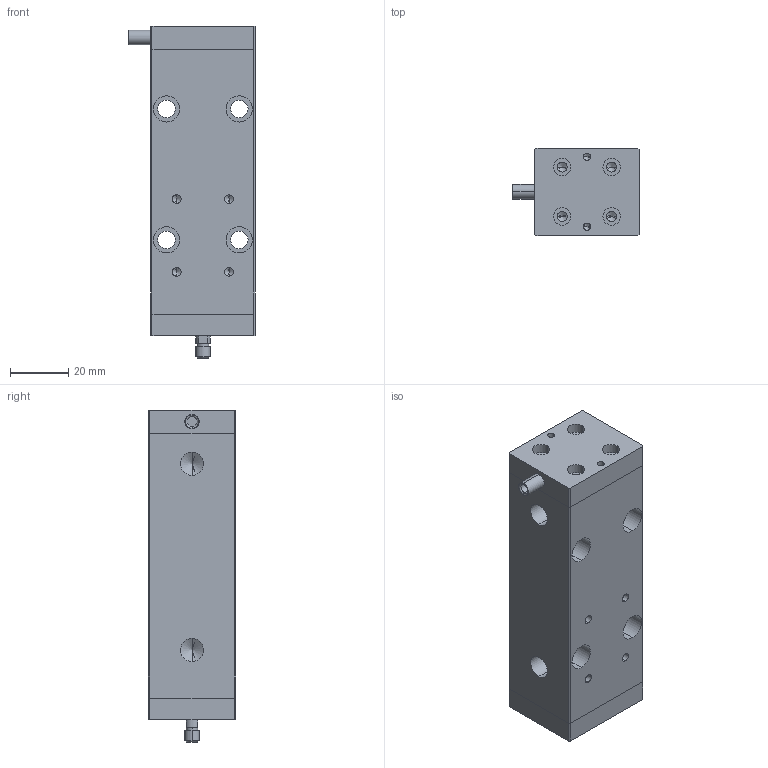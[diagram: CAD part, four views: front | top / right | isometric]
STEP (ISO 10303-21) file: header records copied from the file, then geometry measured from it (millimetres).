
FILE_DESCRIPTION (( 'STEP AP203' ), '1' );
FILE_NAME ('XD700.100S-B2外形三维-21.10.18.STEP', '2021-10-18T03:35:15', ( 'Windows 用户' ), ( '微软中国' ), 'SwSTEP 2.0', 'SolidWorks 2016', '' );
FILE_SCHEMA (( 'CONFIG_CONTROL_DESIGN' ));
Length unit declared in the file: millimetre
Products named in the file (1): XD700.100S-B2外形三维-21.10.18
Bounding box: 43.5 x 30 x 114.1 mm (x, y, z)
Volume: 106013.6 mm3; surface area: 25863.1 mm2
Topology: 3 solids, 3 shells, 205 faces, 491 edges, 292 vertices
Faces by surface type: cylinder 107, plane 54, cone 42, torus 2
Entity records: 5820 total; most frequent: DIRECTION 1085, CARTESIAN_POINT 949, ORIENTED_EDGE 902, EDGE_CURVE 451, AXIS2_PLACEMENT_3D 428, VERTEX_POINT 292, EDGE_LOOP 269, LINE 229
